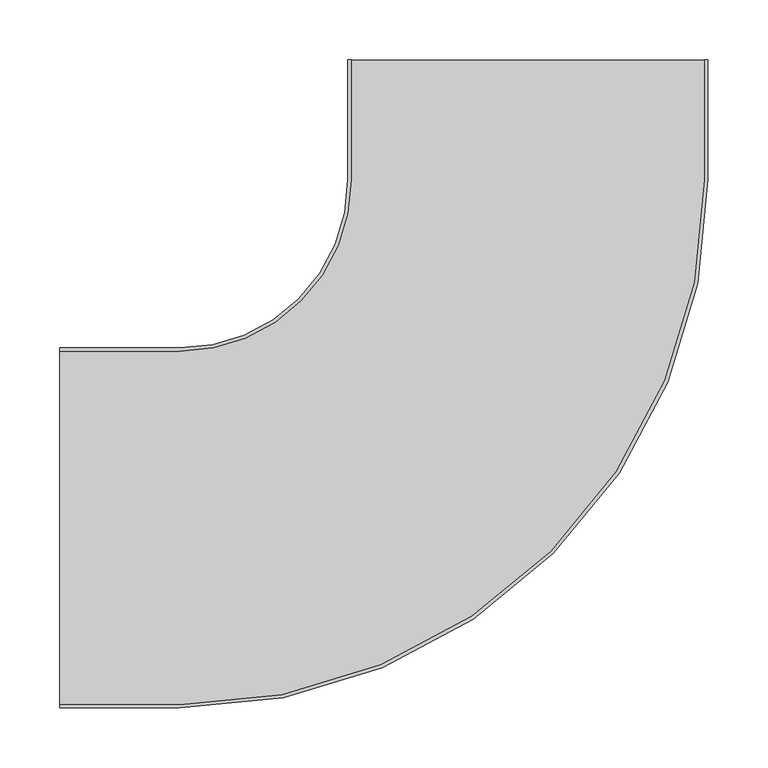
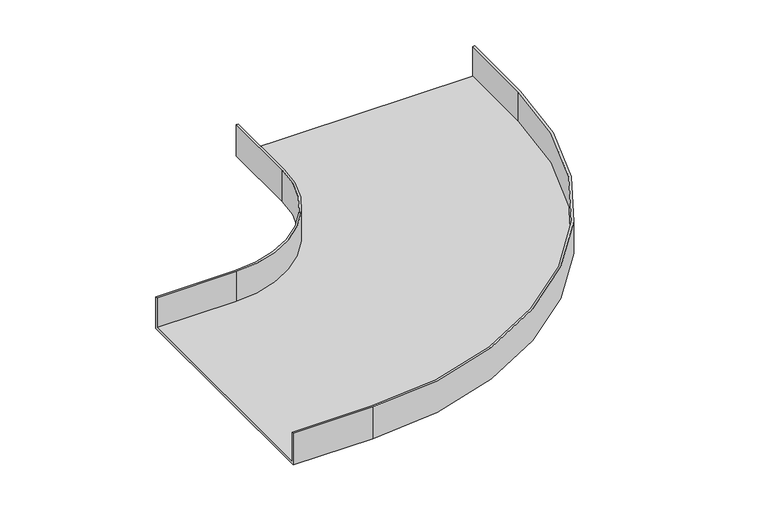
"""IFC4 building model written with IfcOpenShell, lengths in millimetres: cable carrier fitting geometry, BAKS_Horizontal bend radius : KKPJ/KKMPJ_H42."""

from ifc_helpers import new_model, si_unit, frame, origin, place, context, project, spatial, polyline, circle_curve, source, transform, mapped, element, save
from ifc_brep_helpers import plane_surface, cylinder_surface, revolved_surface, advanced_brep


def cable_carrier_fitting_c1d9b0e5(model_context):
    return source(origin(), model_context, "Body", "AdvancedBrep", [
        advanced_brep(
        [(-390.0, -150.0, -21.0), (-390.0, -150.0, 21.0), (-390.0, -147.46, 21.0), (-390.0, -147.46, -18.46), (-390.0, 147.46, -18.46), (-390.0, 147.46, 21.0), (-390.0, 150.0, 21.0), (-390.0, 150.0, -21.0), (150.0, 390.0, -21.0), (-150.0, 390.0, -21.0), (-150.0, 390.0, 21.0), (-147.46, 390.0, 21.0), (-147.46, 390.0, -18.46), (147.46, 390.0, -18.46), (147.46, 390.0, 21.0), (150.0, 390.0, 21.0), (-290.0, -150.0, -21.0), (-290.0, -150.0, 21.0), (150.0, 290.0, 21.0), (147.46, 290.0, 21.0), (-290.0, -147.46, 21.0), (-290.0, -147.46, -18.46), (147.46, 290.0, -18.46), (-147.46, 290.0, -18.46), (-290.0, 147.46, -18.46), (-290.0, 147.46, 21.0), (-147.46, 290.0, 21.0), (-150.0, 290.0, 21.0), (-290.0, 150.0, 21.0), (-290.0, 150.0, -21.0), (-150.0, 290.0, -21.0), (150.0, 290.0, -21.0)],
        [
            (0, 1),
            (1, 2),
            (2, 3),
            (3, 4),
            (4, 5),
            (5, 6),
            (6, 7),
            (7, 0),
            (8, 9),
            (9, 10),
            (10, 11),
            (11, 12),
            (12, 13),
            (13, 14),
            (14, 15),
            (15, 8),
            (0, 16),
            (16, 17),
            (17, 1),
            (17, 18, circle_curve(frame((-290.0, 290.0, 21.0), z_axis=(0.0, 0.0, 1.0), x_axis=(0.0, -1.0, 0.0)), 440.0)),
            (18, 15),
            (14, 19),
            (19, 20, circle_curve(frame((-290.0, 290.0, 21.0), z_axis=(0.0, 0.0, -1.0), x_axis=(0.0, -1.0, 0.0)), 437.46)),
            (20, 2),
            (20, 21),
            (21, 3),
            (21, 22, circle_curve(frame((-290.0, 290.0, -18.46), z_axis=(0.0, 0.0, 1.0), x_axis=(0.0, -1.0, 0.0)), 437.46)),
            (22, 13),
            (12, 23),
            (23, 24, circle_curve(frame((-290.0, 290.0, -18.46), z_axis=(0.0, 0.0, -1.0), x_axis=(0.0, -1.0, 0.0)), 142.54)),
            (24, 4),
            (24, 25),
            (25, 5),
            (25, 26, circle_curve(frame((-290.0, 290.0, 21.0), z_axis=(0.0, 0.0, 1.0), x_axis=(0.0, -1.0, 0.0)), 142.54)),
            (26, 11),
            (10, 27),
            (27, 28, circle_curve(frame((-290.0, 290.0, 21.0), z_axis=(0.0, 0.0, -1.0), x_axis=(0.0, -1.0, 0.0)), 140.0)),
            (28, 6),
            (28, 29),
            (29, 7),
            (29, 30, circle_curve(frame((-290.0, 290.0, -21.0), z_axis=(0.0, 0.0, 1.0), x_axis=(0.0, -1.0, 0.0)), 140.0)),
            (30, 9),
            (8, 31),
            (31, 16, circle_curve(frame((-290.0, 290.0, -21.0), z_axis=(0.0, 0.0, -1.0), x_axis=(0.0, -1.0, 0.0)), 440.0)),
            (31, 18),
            (19, 22),
            (23, 26),
            (27, 30),
        ],
        [
            plane_surface(frame((-390.0, 0.0, 0.0), z_axis=(-1.0, 0.0, 0.0), x_axis=(0.0, 0.0, 1.0))),
            plane_surface(frame((0.0, 390.0, 0.0), z_axis=(0.0, 1.0, 0.0), x_axis=(0.0, 0.0, 1.0))),
            plane_surface(frame((-390.0, -150.0, -21.0), z_axis=(0.0, -1.0, 0.0), x_axis=(1.0, 0.0, 0.0))),
            plane_surface(frame((-390.0, -150.0, 21.0), z_axis=(0.0, 0.0, 1.0), x_axis=(1.0, 0.0, 0.0))),
            plane_surface(frame((-390.0, -147.46, 21.0), z_axis=(0.0, 1.0, 0.0), x_axis=(1.0, 0.0, 0.0))),
            plane_surface(frame((-390.0, -147.46, -18.46), z_axis=(0.0, 0.0, 1.0), x_axis=(1.0, 0.0, 0.0))),
            plane_surface(frame((-390.0, 147.46, -18.46), z_axis=(0.0, -1.0, 0.0), x_axis=(1.0, 0.0, 0.0))),
            plane_surface(frame((-390.0, 147.46, 21.0), z_axis=(0.0, 0.0, 1.0), x_axis=(1.0, 0.0, 0.0))),
            plane_surface(frame((-390.0, 150.0, 21.0), z_axis=(0.0, 1.0, 0.0), x_axis=(1.0, 0.0, 0.0))),
            plane_surface(frame((-390.0, 150.0, -21.0), z_axis=(0.0, 0.0, -1.0), x_axis=(1.0, 0.0, 0.0))),
            cylinder_surface(frame((-290.0, 290.0, 0.0), z_axis=(0.0, 0.0, 1.0), x_axis=(0.0, -1.0, 0.0)), 440.0),
            revolved_surface(polyline([(-290.0, -147.45999999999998, 21.0), (-290.0, -147.45999999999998, -18.46)]), (-290.0, 290.0, 0.0), (0.0, 0.0, 1.0)),
            cylinder_surface(frame((-290.0, 290.0, 0.0), z_axis=(0.0, 0.0, 1.0), x_axis=(0.0, -1.0, 0.0)), 142.54),
            revolved_surface(polyline([(-290.0, 150.0, 21.0), (-290.0, 150.0, -21.0)]), (-290.0, 290.0, 0.0), (0.0, 0.0, 1.0)),
            plane_surface(frame((150.0, 290.0, -21.0), z_axis=(1.0, 0.0, 0.0), x_axis=(0.0, 1.0, 0.0))),
            plane_surface(frame((147.46, 290.0, 21.0), z_axis=(-1.0, 0.0, 0.0), x_axis=(0.0, 1.0, 0.0))),
            plane_surface(frame((-147.46, 290.0, -18.46), z_axis=(1.0, 0.0, 0.0), x_axis=(0.0, 1.0, 0.0))),
            plane_surface(frame((-150.0, 290.0, 21.0), z_axis=(-1.0, 0.0, 0.0), x_axis=(0.0, 1.0, 0.0))),
        ],
        [
            (0, [[1, 2, 3, 4, 5, 6, 7, 8]]),
            (1, [[9, 10, 11, 12, 13, 14, 15, 16]]),
            (2, [[-1, 17, 18, 19]]),
            (3, [[-2, -19, 20, 21, -15, 22, 23, 24]]),
            (4, [[-3, -24, 25, 26]]),
            (5, [[-4, -26, 27, 28, -13, 29, 30, 31]]),
            (6, [[-5, -31, 32, 33]]),
            (7, [[-6, -33, 34, 35, -11, 36, 37, 38]]),
            (8, [[-7, -38, 39, 40]]),
            (9, [[-8, -40, 41, 42, -9, 43, 44, -17]]),
            (10, [[-20, -18, -44, 45]]),
            (11, [[-27, -25, -23, 46]]),
            (12, [[-34, -32, -30, 47]]),
            (13, [[-41, -39, -37, 48]]),
            (14, [[-45, -43, -16, -21]]),
            (15, [[-46, -22, -14, -28]]),
            (16, [[-47, -29, -12, -35]]),
            (17, [[-48, -36, -10, -42]]),
        ],
    ),
    ])


if __name__ == "__main__":
    model = new_model("IFC4")
    model_context = context("Model", 3, world=origin())
    ifc_project = project(units=[si_unit("LENGTHUNIT", "METRE", prefix="MILLI")], contexts=[model_context])
    site = spatial("IfcSite", under=ifc_project)
    building = spatial("IfcBuilding", under=site)
    placement = place(None, origin())
    cable_carrier_fitting_shape = cable_carrier_fitting_c1d9b0e5(model_context)
    element("IfcCableCarrierFitting", 1, ObjectType="BAKS_Horizontal bend radius : KKPJ/KKMPJ_H42", at=placement, inside=building, context=model_context, shape_type="MappedRepresentation", body=[
        mapped(cable_carrier_fitting_shape, transform((0.0, 0.0, 0.0), x_axis=(1.0, 0.0, 0.0), y_axis=(0.0, 1.0, 0.0), z_axis=(0.0, 0.0, 1.0))),
    ])
    save(model, "model.ifc")
